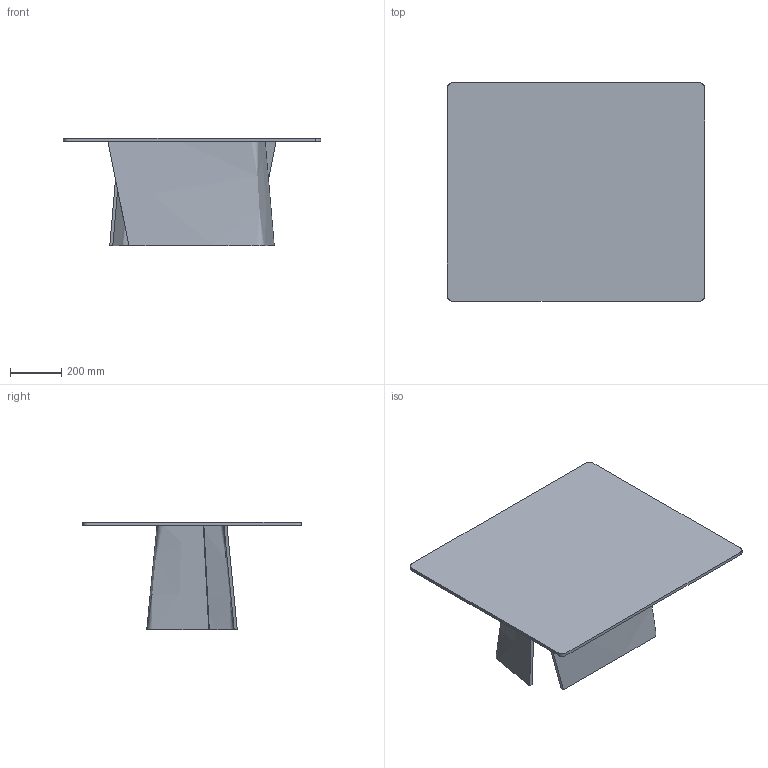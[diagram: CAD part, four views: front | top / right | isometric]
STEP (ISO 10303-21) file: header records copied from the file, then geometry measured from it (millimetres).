
FILE_DESCRIPTION(/* description */ (''),/* implementation_level */ '2;1');
FILE_NAME(/* name */ '500.301 - Accordo Tavolino rettangolare H42 100x85',/* time_stamp */ '2010-11-03T16:25:43+01:00',/* author */ (''),/* organization */ (''),/* preprocessor_version */ 'ST-DEVELOPER v10',/* originating_system */ '',/* authorisation */ '');
FILE_SCHEMA (('CONFIG_CONTROL_DESIGN'));
Length unit declared in the file: centimetre
Products named in the file (1): 1
Bounding box: 1000 x 850 x 417 mm (x, y, z)
Volume: 18602459.1 mm3; surface area: 3064456 mm2
Topology: 3 solids, 3 shells, 18 faces, 36 edges, 24 vertices
Faces by surface type: bspline 12, plane 6
Entity records: 726 total; most frequent: CARTESIAN_POINT 424, ORIENTED_EDGE 72, EDGE_CURVE 36, VERTEX_POINT 24, ADVANCED_FACE 18, FACE_OUTER_BOUND 18, EDGE_LOOP 18, DIRECTION 10
